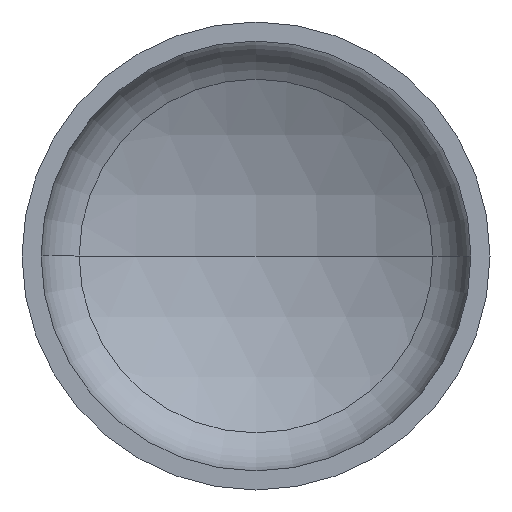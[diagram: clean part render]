
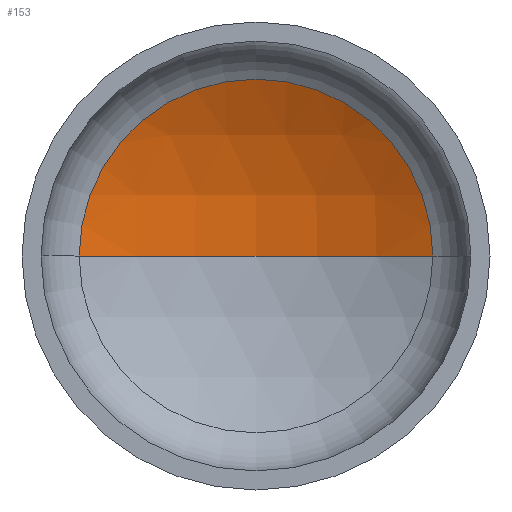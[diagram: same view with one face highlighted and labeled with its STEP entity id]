
A CAD part, front view. The second image highlights one B-rep face of the part: STEP entity #153.
In plain terms, the highlighted spherical face has radius 1920 mm.
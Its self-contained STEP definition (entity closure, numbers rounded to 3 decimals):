
#6 = AXIS2_PLACEMENT_3D ( 'NONE', #82, #112, #128 ) ;
#17 = AXIS2_PLACEMENT_3D ( 'NONE', #233, #386, #336 ) ;
#24 = EDGE_LOOP ( 'NONE', ( #139, #221, #123 ) ) ;
#45 = AXIS2_PLACEMENT_3D ( 'NONE', #201, #213, #312 ) ;
#46 = AXIS2_PLACEMENT_3D ( 'NONE', #227, #222, #223 ) ;
#66 = VERTEX_POINT ( 'NONE', #251 ) ;
#82 = CARTESIAN_POINT ( 'NONE',  ( 0., -1266.264, 0. ) ) ;
#83 = EDGE_CURVE ( 'NONE', #66, #116, #268, .T. ) ;
#112 = DIRECTION ( 'NONE',  ( 0., 0., -1. ) ) ;
#116 = VERTEX_POINT ( 'NONE', #190 ) ;
#123 = ORIENTED_EDGE ( 'NONE', *, *, #83, .T. ) ;
#128 = DIRECTION ( 'NONE',  ( -1., 0., 0. ) ) ;
#139 = ORIENTED_EDGE ( 'NONE', *, *, #348, .F. ) ;
#147 = CIRCLE ( 'NONE', #6, 1920. ) ;
#153 = ADVANCED_FACE ( 'NONE', ( #187 ), #323, .F. ) ;
#187 = FACE_OUTER_BOUND ( 'NONE', #24, .T. ) ;
#190 = CARTESIAN_POINT ( 'NONE',  ( -906.735, 426.14, 0. ) ) ;
#201 = CARTESIAN_POINT ( 'NONE',  ( 0., -1266.264, 0. ) ) ;
#213 = DIRECTION ( 'NONE',  ( 0., 0., -1. ) ) ;
#219 = CARTESIAN_POINT ( 'NONE',  ( 0., 653.736, 0. ) ) ;
#221 = ORIENTED_EDGE ( 'NONE', *, *, #367, .T. ) ;
#222 = DIRECTION ( 'NONE',  ( 0., -1., 0. ) ) ;
#223 = DIRECTION ( 'NONE',  ( 1., 0., 0. ) ) ;
#226 = VERTEX_POINT ( 'NONE', #219 ) ;
#227 = CARTESIAN_POINT ( 'NONE',  ( 0., 426.14, 0. ) ) ;
#233 = CARTESIAN_POINT ( 'NONE',  ( 0., -1266.264, 0. ) ) ;
#251 = CARTESIAN_POINT ( 'NONE',  ( 906.735, 426.14, 0. ) ) ;
#268 = CIRCLE ( 'NONE', #46, 906.735 ) ;
#312 = DIRECTION ( 'NONE',  ( -1., 0., 0. ) ) ;
#323 = SPHERICAL_SURFACE ( 'NONE', #45, 1920. ) ;
#336 = DIRECTION ( 'NONE',  ( 1., 0., 0. ) ) ;
#348 = EDGE_CURVE ( 'NONE', #226, #116, #370, .T. ) ;
#367 = EDGE_CURVE ( 'NONE', #226, #66, #147, .T. ) ;
#370 = CIRCLE ( 'NONE', #17, 1920. ) ;
#386 = DIRECTION ( 'NONE',  ( 0., 0., 1. ) ) ;
